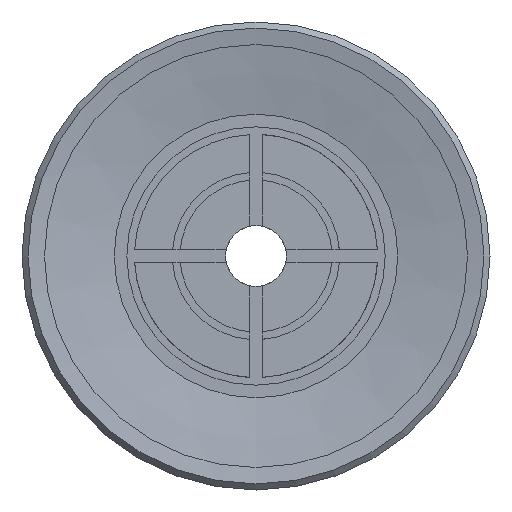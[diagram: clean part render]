
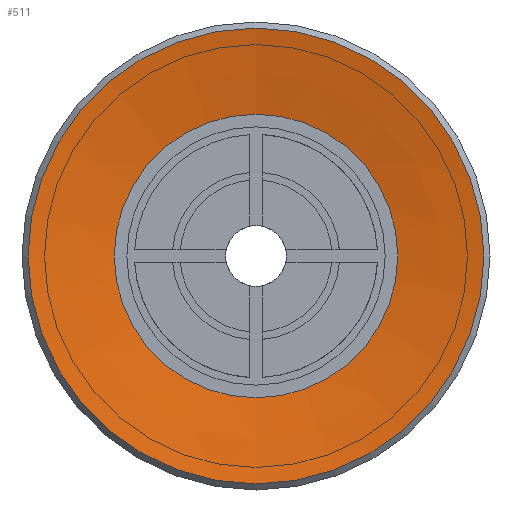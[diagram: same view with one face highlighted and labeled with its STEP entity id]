
A CAD part, front view. The second image highlights one B-rep face of the part: STEP entity #511.
In plain terms, the highlighted conical face has half-angle 80 degrees and reference radius 4.664 mm.
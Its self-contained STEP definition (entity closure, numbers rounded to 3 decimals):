
#511=ADVANCED_FACE('',(#803,#804),#805,.F.);
#803=FACE_BOUND('',#1120,.T.);
#804=FACE_OUTER_BOUND('',#1121,.T.);
#805=CONICAL_SURFACE('',#1122,4.664,1.396);
#1120=EDGE_LOOP('',(#1950));
#1121=EDGE_LOOP('',(#1951));
#1122=AXIS2_PLACEMENT_3D('',#1952,#1953,#1954);
#1950=ORIENTED_EDGE('',*,*,#2299,.F.);
#1951=ORIENTED_EDGE('',*,*,#2300,.T.);
#1952=CARTESIAN_POINT('',(0.0,0.5,0.0));
#1953=DIRECTION('',(-0.0,-1.0,0.));
#1954=DIRECTION('',(0.0,0.,-1.0));
#2299=EDGE_CURVE('',#2713,#2713,#2714,.T.);
#2300=EDGE_CURVE('',#2715,#2715,#2716,.T.);
#2713=VERTEX_POINT('',#3561);
#2714=CIRCLE('',#3562,4.664);
#2715=VERTEX_POINT('',#3563);
#2716=CIRCLE('',#3564,7.5);
#3561=CARTESIAN_POINT('',(0.0,0.5,-4.664));
#3562=AXIS2_PLACEMENT_3D('',#3974,#3975,#3976);
#3563=CARTESIAN_POINT('',(0.0,0.,-7.5));
#3564=AXIS2_PLACEMENT_3D('',#3977,#3978,#3979);
#3974=CARTESIAN_POINT('',(0.0,0.5,0.0));
#3975=DIRECTION('',(0.0,-1.0,0.));
#3976=DIRECTION('',(0.0,0.,-1.0));
#3977=CARTESIAN_POINT('',(0.0,0.0,0.0));
#3978=DIRECTION('',(0.0,-1.0,0.));
#3979=DIRECTION('',(0.0,0.,-1.0));
